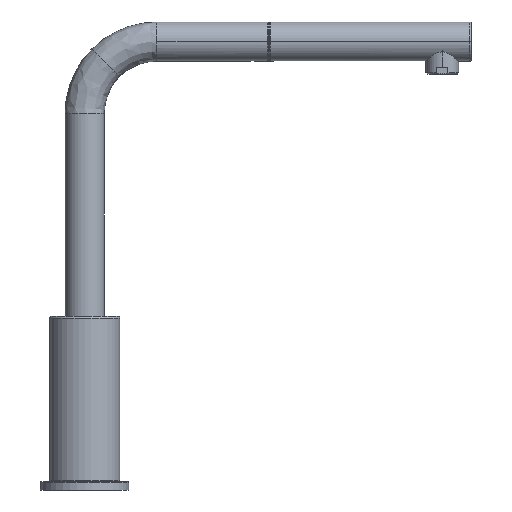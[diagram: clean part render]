
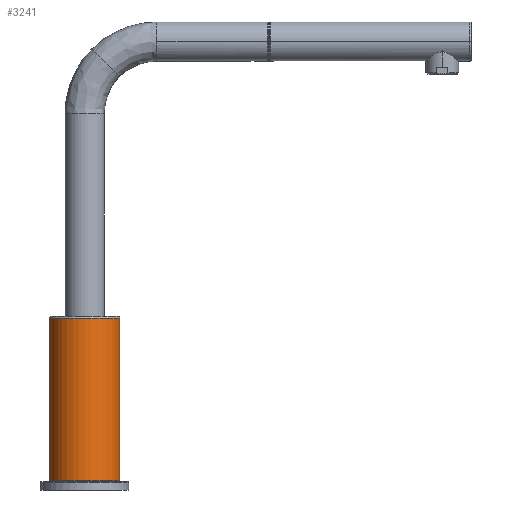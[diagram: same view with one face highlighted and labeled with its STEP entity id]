
A CAD part, left-side view. The second image highlights one B-rep face of the part: STEP entity #3241.
In plain terms, the highlighted cylindrical face has radius 21.5 mm (diameter 43 mm), a partial arc.
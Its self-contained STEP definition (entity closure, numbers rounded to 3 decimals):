
#3241=ADVANCED_FACE('',(#5606),#35581,.T.);
#5606=FACE_OUTER_BOUND('',#8027,.T.);
#8027=EDGE_LOOP('',(#18073,#18074,#18075,#18076));
#18073=ORIENTED_EDGE('',*,*,#24117,.T.);
#18074=ORIENTED_EDGE('',*,*,#24119,.T.);
#18075=ORIENTED_EDGE('',*,*,#24116,.F.);
#18076=ORIENTED_EDGE('',*,*,#24118,.T.);
#24116=EDGE_CURVE('',#32900,#32899,#25313,.T.);
#24117=EDGE_CURVE('',#32901,#32902,#25314,.T.);
#24118=EDGE_CURVE('',#32900,#32901,#29562,.T.);
#24119=EDGE_CURVE('',#32902,#32899,#29563,.T.);
#25313=TRIMMED_CURVE($,#26024,(#92958),(#92959),.T.,.CARTESIAN.);
#25314=TRIMMED_CURVE($,#26025,(#92961),(#92962),.T.,.CARTESIAN.);
#26024=CIRCLE('',#39210,21.5);
#26025=CIRCLE('',#39211,21.5);
#29562=B_SPLINE_CURVE_WITH_KNOTS('',1,(#92963,#92964),.UNSPECIFIED.,.F.,
 .F.,(2,2),(-99.2,0.),.UNSPECIFIED.);
#29563=B_SPLINE_CURVE_WITH_KNOTS('',1,(#92965,#92966),.UNSPECIFIED.,.F.,
 .F.,(2,2),(-99.2,0.),.UNSPECIFIED.);
#32899=VERTEX_POINT('',#92226);
#32900=VERTEX_POINT('',#92227);
#32901=VERTEX_POINT('',#92228);
#32902=VERTEX_POINT('',#92229);
#35581=CYLINDRICAL_SURFACE('',#39091,21.5);
#39091=AXIS2_PLACEMENT_3D('',#90097,#41861,$);
#39210=AXIS2_PLACEMENT_3D($,#92957,#42075,#42076);
#39211=AXIS2_PLACEMENT_3D($,#92960,#42077,#42078);
#41861=DIRECTION('',(0.,-1.,0.));
#42075=DIRECTION('',(0.,1.,0.));
#42076=DIRECTION('',(0.,0.,-1.));
#42077=DIRECTION('',(0.,1.,0.));
#42078=DIRECTION('',(0.,0.,-1.));
#90097=CARTESIAN_POINT('',(0.,50.1,0.));
#92226=CARTESIAN_POINT('',(0.,99.7,21.5));
#92227=CARTESIAN_POINT('',(0.,99.7,-21.5));
#92228=CARTESIAN_POINT('',(0.,0.5,-21.5));
#92229=CARTESIAN_POINT('',(0.,0.5,21.5));
#92957=CARTESIAN_POINT('',(0.,99.7,0.));
#92958=CARTESIAN_POINT('',(0.,99.7,-21.5));
#92959=CARTESIAN_POINT('',(0.,99.7,21.5));
#92960=CARTESIAN_POINT('',(0.,0.5,0.));
#92961=CARTESIAN_POINT('',(0.,0.5,-21.5));
#92962=CARTESIAN_POINT('',(0.,0.5,21.5));
#92963=CARTESIAN_POINT('',(0.,99.7,-21.5));
#92964=CARTESIAN_POINT('',(0.,0.5,-21.5));
#92965=CARTESIAN_POINT('',(0.,0.5,21.5));
#92966=CARTESIAN_POINT('',(0.,99.7,21.5));
